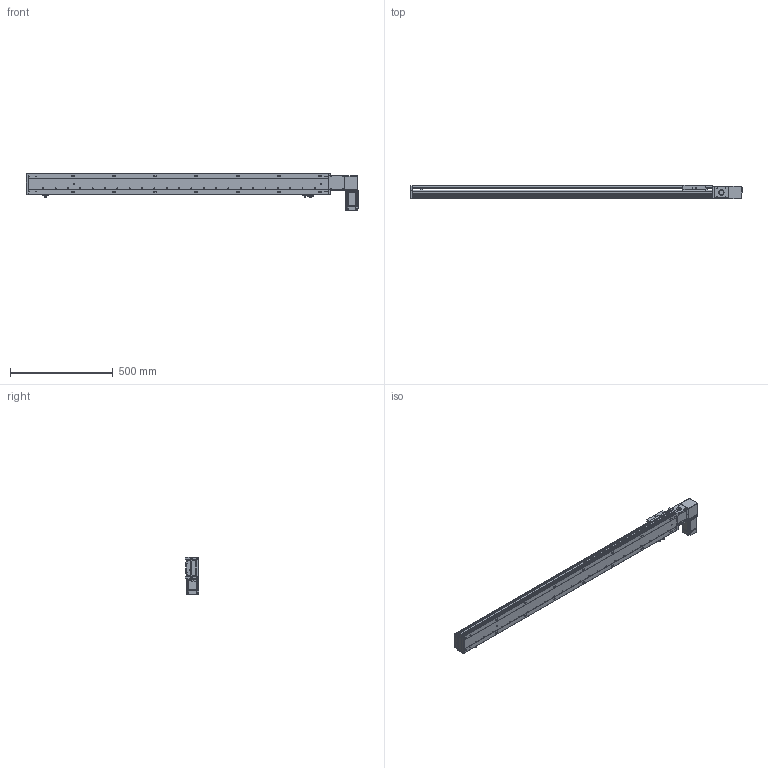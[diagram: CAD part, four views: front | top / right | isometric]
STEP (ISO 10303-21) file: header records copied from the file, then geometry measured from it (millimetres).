
FILE_DESCRIPTION (( 'STEP AP203' ), '1' );
FILE_NAME ('RY100-T-300-LK.SLDASM_1250.step', '2024-04-25T05:37:51', ( '盈信电脑' ), ( '东莞市道滘镇水果街19号' ), 'SwSTEP 2.0', 'SolidWorks 2016', '' );
FILE_SCHEMA (( 'CONFIG_CONTROL_DESIGN' ));
Length unit declared in the file: millimetre
Products named in the file (13): RY80-T肮祭謫俋欶; RY100-T-300-RK倰第菁釱_1250; RY100俋离覜茼え; 滅袉蝶18-10; RY100-T-300-LK.SLDASM_1250; RY100-T-300-RK倰第奻裔_1250; RY100綴裔啣; RY100-T左右折电机安装板; RY100-T翋肮祭謫裔啣2; 覜茼ん672; RY100-T肮祭謫翋盓傅釱; RY100-T肮祭謫臏賑輸; 1
Assembly tree (16 placements, depth 2):
  RY100-T-300-LK.SLDASM_1250
    RY100-T-300-RK倰第菁釱_1250
    RY100-T-300-RK倰第奻裔_1250
    RY100-T肮祭謫臏賑輸
    RY100綴裔啣
    覜茼ん672  x3
    RY100俋离覜茼え
    RY100-T肮祭謫翋盓傅釱
    滅袉蝶18-10  x2
    RY100-T翋肮祭謫裔啣2  x2
    RY80-T肮祭謫俋欶
    RY100-T左右折电机安装板
    1
Bounding box: 1614 x 66 x 182.5 mm (x, y, z)
Volume: 3013491.8 mm3; surface area: 1248783.4 mm2
Topology: 16 solids, 16 shells, 2158 faces, 6021 edges, 3913 vertices
Faces by surface type: plane 1174, cylinder 775, cone 131, bspline 78
Entity records: 68851 total; most frequent: CARTESIAN_POINT 16717, ORIENTED_EDGE 10778, DIRECTION 10229, EDGE_CURVE 5389, VERTEX_POINT 3549, LINE 3493, VECTOR 3493, AXIS2_PLACEMENT_3D 3368
